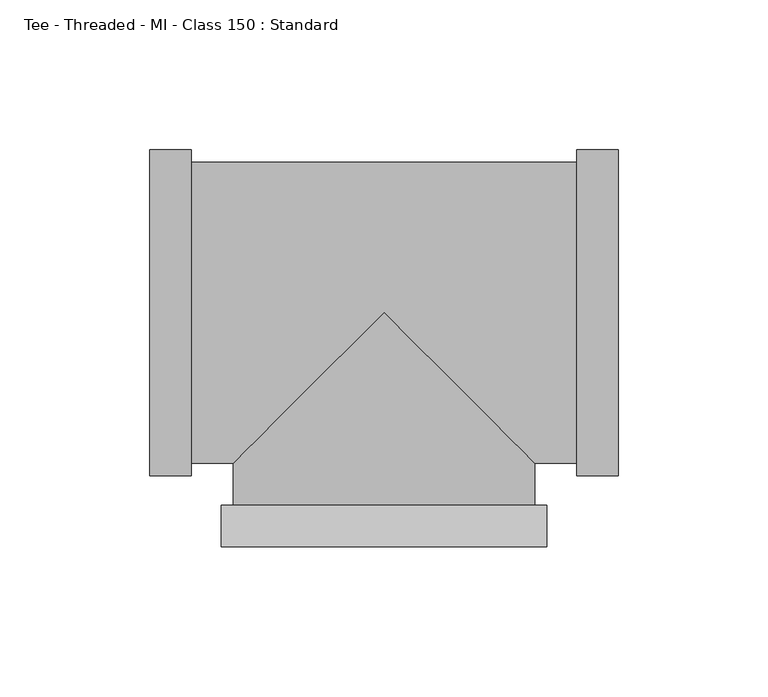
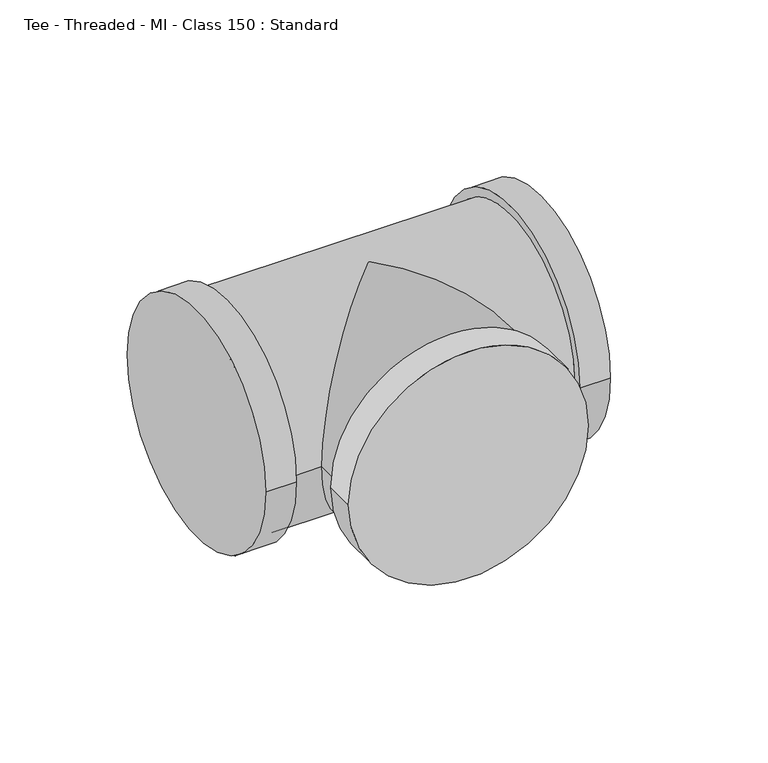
"""IFC4 building model written with IfcOpenShell, lengths in millimetres: pipe fitting geometry, Tee - Threaded - MI - Class 150 : Standard."""

from ifc_helpers import new_model, si_unit, frame, origin, place, context, project, spatial, circle_curve, ellipse_curve, source, transform, mapped, element, save
from ifc_brep_helpers import plane_surface, cylinder_surface, advanced_brep


def tee_threaded_mi_class_150_standard_4d7a1bad(model_context):
    return source(origin(), model_context, "Body", "AdvancedBrep", [
        advanced_brep(
        [(54.3928686, -78.2049605, 0.0), (-54.407131, -78.1950388, 0.0), (54.3941361, -64.3049606, 0.0), (-54.4058634, -64.2950389, 0.0), (50.3141361, -64.3045885, 0.0), (-50.3258634, -64.2954109, 0.0), (50.3154114, -50.32, 0.0), (0.0, 0.0, 50.32), (-50.324589, -50.32, 0.0), (0.0, 0.0, -50.32), (-78.2, -54.4, 0.0), (-78.2, 54.4, 0.0), (-64.3, -54.4, 0.0), (-64.3, 54.4, 0.0), (-64.3, -50.32, 0.0), (-64.3, 50.32, 0.0), (64.3, -54.4, 0.0), (64.3, 54.4, 0.0), (64.3, 50.32, 0.0), (64.3, -50.32, 0.0), (78.2, -54.4, 0.0), (78.2, 54.4, 0.0)],
        [
            (0, 1, circle_curve(frame((-0.0071312, -78.1999997, 0.0), z_axis=(-9.119205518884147e-05, -0.9999999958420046, 0.0), x_axis=(-0.9999999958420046, 9.119205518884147e-05, 0.0)), 54.4)),
            (1, 0, circle_curve(frame((-0.0071312, -78.1999997, 0.0), z_axis=(-9.119205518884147e-05, -0.9999999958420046, 0.0), x_axis=(-0.9999999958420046, 9.119205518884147e-05, 0.0)), 54.4)),
            (2, 3, circle_curve(frame((-0.0058636, -64.2999997, 0.0), z_axis=(9.119205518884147e-05, 0.9999999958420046, 0.0), x_axis=(-0.9999999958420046, 9.119205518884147e-05, 0.0)), 54.4)),
            (3, 2, circle_curve(frame((-0.0058636, -64.2999997, 0.0), z_axis=(9.119205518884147e-05, 0.9999999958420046, 0.0), x_axis=(-0.9999999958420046, 9.119205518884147e-05, 0.0)), 54.4)),
            (4, 5, circle_curve(frame((-0.0058636, -64.2999997, 0.0), z_axis=(-9.119205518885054e-05, -0.9999999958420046, 0.0), x_axis=(0.9999999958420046, -9.119205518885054e-05, 0.0)), 50.32)),
            (5, 4, circle_curve(frame((-0.0058636, -64.2999997, 0.0), z_axis=(-9.119205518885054e-05, -0.9999999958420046, 0.0), x_axis=(0.9999999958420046, -9.119205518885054e-05, 0.0)), 50.32)),
            (0, 2),
            (3, 1),
            (4, 6),
            (6, 7, ellipse_curve(frame((0.0, 0.0, 0.0), z_axis=(-0.7071390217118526, -0.7070745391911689, 0.0), x_axis=(-0.7070745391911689, 0.7071390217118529, 0.0)), 71.1599819, 50.32)),
            (7, 8, ellipse_curve(frame((0.0, 0.0, 0.0), z_axis=(0.707074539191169, -0.7071390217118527, 0.0), x_axis=(0.7071390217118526, 0.7070745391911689, 0.0)), 71.1664714, 50.32)),
            (8, 5),
            (8, 9, ellipse_curve(frame((0.0, 0.0, 0.0), z_axis=(0.707074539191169, -0.7071390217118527, 0.0), x_axis=(0.7071390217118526, 0.7070745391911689, 0.0)), 71.1664714, 50.32)),
            (9, 6, ellipse_curve(frame((0.0, 0.0, 0.0), z_axis=(-0.7071390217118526, -0.7070745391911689, 0.0), x_axis=(-0.7070745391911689, 0.7071390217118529, 0.0)), 71.1599819, 50.32)),
            (10, 11, circle_curve(frame((-78.2, 0.0, 0.0), z_axis=(-1.0, 0.0, 0.0), x_axis=(0.0, 1.0, 0.0)), 54.4)),
            (11, 10, circle_curve(frame((-78.2, 0.0, 0.0), z_axis=(-1.0, 0.0, 0.0), x_axis=(0.0, 1.0, 0.0)), 54.4)),
            (12, 13, circle_curve(frame((-64.3, 0.0, 0.0), z_axis=(1.0, 0.0, 0.0), x_axis=(0.0, 1.0, 0.0)), 54.4)),
            (13, 12, circle_curve(frame((-64.3, 0.0, 0.0), z_axis=(1.0, 0.0, 0.0), x_axis=(0.0, 1.0, 0.0)), 54.4)),
            (14, 15, circle_curve(frame((-64.3, 0.0, 0.0), z_axis=(-1.0, 0.0, 0.0), x_axis=(0.0, 1.0, 0.0)), 50.32)),
            (15, 14, circle_curve(frame((-64.3, 0.0, 0.0), z_axis=(-1.0, 0.0, 0.0), x_axis=(0.0, 1.0, 0.0)), 50.32)),
            (10, 12),
            (13, 11),
            (16, 17, circle_curve(frame((64.3, 0.0, 0.0), z_axis=(-1.0, 0.0, 0.0), x_axis=(0.0, 1.0, 0.0)), 54.4)),
            (17, 16, circle_curve(frame((64.3, 0.0, 0.0), z_axis=(-1.0, 0.0, 0.0), x_axis=(0.0, 1.0, 0.0)), 54.4)),
            (18, 19, circle_curve(frame((64.3, 0.0, 0.0), z_axis=(1.0, 0.0, 0.0), x_axis=(0.0, 1.0, 0.0)), 50.32)),
            (19, 18, circle_curve(frame((64.3, 0.0, 0.0), z_axis=(1.0, 0.0, 0.0), x_axis=(0.0, 1.0, 0.0)), 50.32)),
            (20, 21, circle_curve(frame((78.2, 0.0, 0.0), z_axis=(1.0, 0.0, 0.0), x_axis=(0.0, 1.0, 0.0)), 54.4)),
            (21, 20, circle_curve(frame((78.2, 0.0, 0.0), z_axis=(1.0, 0.0, 0.0), x_axis=(0.0, 1.0, 0.0)), 54.4)),
            (16, 20),
            (21, 17),
            (18, 15),
            (14, 8),
            (6, 19),
        ],
        [
            plane_surface(frame((-0.0071312, -78.1999997, 0.0), z_axis=(-9.119205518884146e-05, -0.9999999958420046, 0.0), x_axis=(0.0, 0.0, 1.0))),
            plane_surface(frame((-0.0058636, -64.2999997, 0.0), z_axis=(9.119205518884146e-05, 0.9999999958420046, 0.0), x_axis=(0.0, 0.0, 1.0))),
            cylinder_surface(frame((-0.0071312, -78.1999997, 0.0), z_axis=(-9.119205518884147e-05, -0.9999999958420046, 0.0), x_axis=(-0.9999999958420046, 9.119205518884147e-05, 0.0)), 54.4),
            cylinder_surface(frame((0.0, 0.0, 0.0), z_axis=(9.119205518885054e-05, 0.9999999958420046, 0.0), x_axis=(0.9999999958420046, -9.119205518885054e-05, 0.0)), 50.32),
            plane_surface(frame((-78.2, 0.0, 0.0), z_axis=(-1.0, 0.0, 0.0), x_axis=(0.0, 0.0, 1.0))),
            plane_surface(frame((-64.3, 0.0, 0.0), z_axis=(1.0, 0.0, 0.0), x_axis=(0.0, 0.0, 1.0))),
            cylinder_surface(frame((-78.2, 0.0, 0.0), z_axis=(-1.0, 0.0, 0.0), x_axis=(0.0, 1.0, 0.0)), 54.4),
            plane_surface(frame((64.3, 0.0, 0.0), z_axis=(-1.0, 0.0, 0.0), x_axis=(0.0, 0.0, 1.0))),
            plane_surface(frame((78.2, 0.0, 0.0), z_axis=(1.0, 0.0, 0.0), x_axis=(0.0, 0.0, 1.0))),
            cylinder_surface(frame((64.3, 0.0, 0.0), z_axis=(-1.0, 0.0, 0.0), x_axis=(0.0, 1.0, 0.0)), 54.4),
            cylinder_surface(frame((-64.3, 0.0, 0.0), z_axis=(-1.0, 0.0, 0.0), x_axis=(0.0, 1.0, 0.0)), 50.32),
        ],
        [
            (0, [[1, 2]]),
            (1, [[3, 4], [5, 6]]),
            (2, [[-1, 7, -4, 8]]),
            (2, [[-2, -8, -3, -7]]),
            (3, [[-5, 9, 10, 11, 12]]),
            (3, [[-6, -12, 13, 14, -9]]),
            (4, [[15, 16]]),
            (5, [[17, 18], [19, 20]]),
            (6, [[-15, 21, -18, 22]]),
            (6, [[-16, -22, -17, -21]]),
            (7, [[23, 24], [25, 26]]),
            (8, [[27, 28]]),
            (9, [[-23, 29, -28, 30]]),
            (9, [[-24, -30, -27, -29]]),
            (10, [[31, -19, 32, -11, -10, 33, -25]]),
            (10, [[-31, -26, -33, -14, -13, -32, -20]]),
        ],
    ),
    ])


if __name__ == "__main__":
    model = new_model("IFC4")
    model_context = context("Model", 3, world=origin())
    ifc_project = project(units=[si_unit("LENGTHUNIT", "METRE", prefix="MILLI")], contexts=[model_context])
    site = spatial("IfcSite", under=ifc_project)
    building = spatial("IfcBuilding", under=site)
    placement = place(None, origin())
    tee_threaded_mi_class_150_standard_shape = tee_threaded_mi_class_150_standard_4d7a1bad(model_context)
    element("IfcPipeFitting", 1, ObjectType="Tee - Threaded - MI - Class 150 : Standard", at=placement, inside=building, context=model_context, shape_type="MappedRepresentation", body=[
        mapped(tee_threaded_mi_class_150_standard_shape, transform((0.0, 0.0, 0.0), x_axis=(1.0, 0.0, 0.0), y_axis=(0.0, 1.0, 0.0), z_axis=(0.0, 0.0, 1.0))),
    ])
    save(model, "model.ifc")
